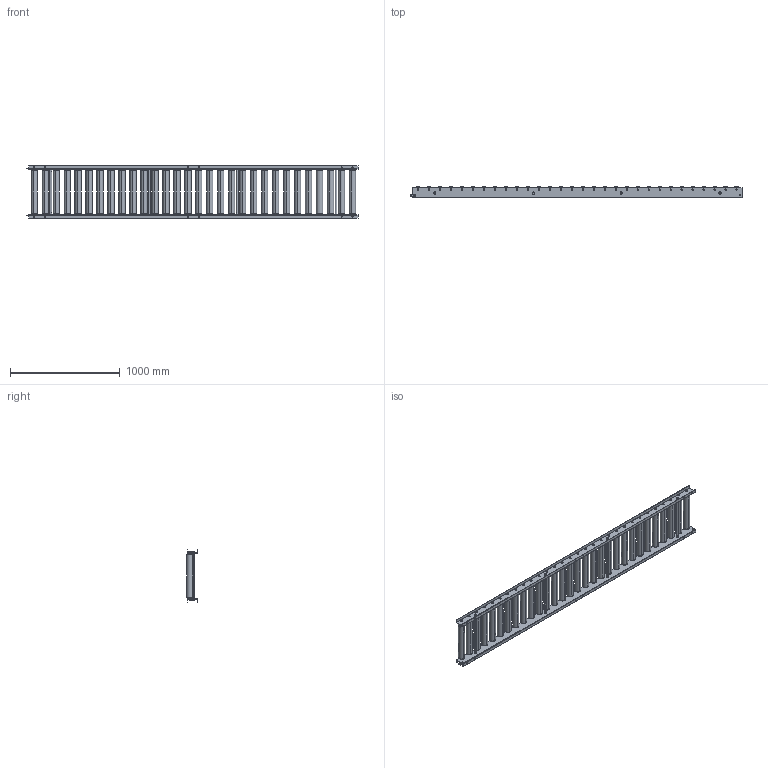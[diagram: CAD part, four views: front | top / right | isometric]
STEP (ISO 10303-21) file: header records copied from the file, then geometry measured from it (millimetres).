
FILE_DESCRIPTION (( 'STEP AP203' ), '1' );
FILE_NAME ('R-5721P.step', '2024-02-20T08:17:34', ( '' ), ( '' ), 'SwSTEP 2.0', 'SolidWorks 2023', '' );
FILE_SCHEMA (( 'CONFIG_CONTROL_DESIGN' ));
Length unit declared in the file: millimetre
Products named in the file (1): R-5721P
Bounding box: 3025 x 100.1 x 475 mm (x, y, z)
Volume: 32910032.4 mm3; surface area: 5576793.9 mm2
Topology: 84 solids, 84 shells, 1280 faces, 2932 edges, 1888 vertices
Faces by surface type: cylinder 622, plane 490, torus 120, cone 48
Entity records: 37571 total; most frequent: DIRECTION 7018, CARTESIAN_POINT 6773, ORIENTED_EDGE 5864, AXIS2_PLACEMENT_3D 2933, EDGE_CURVE 2932, VERTEX_POINT 1888, CIRCLE 1652, EDGE_LOOP 1652
